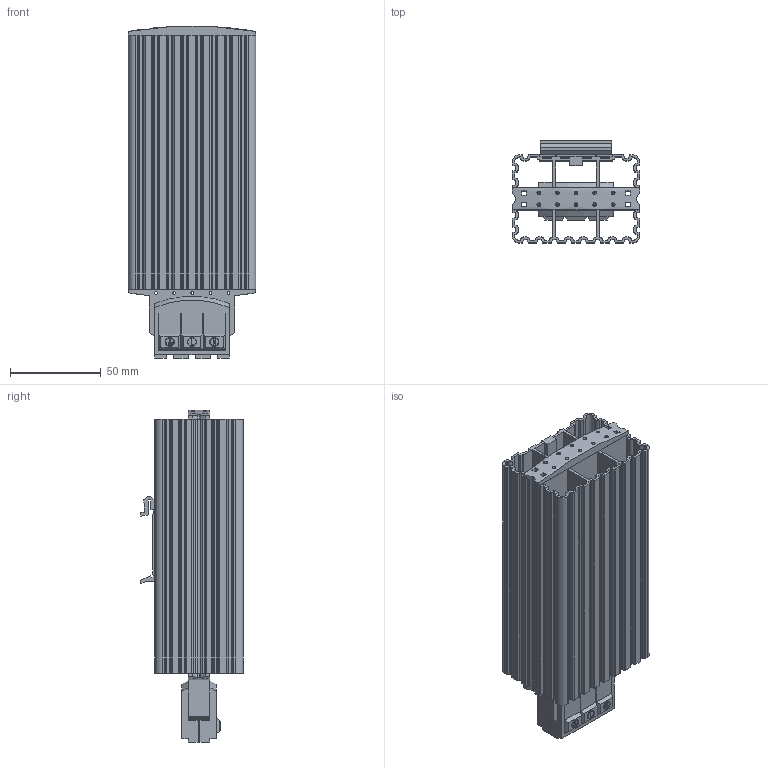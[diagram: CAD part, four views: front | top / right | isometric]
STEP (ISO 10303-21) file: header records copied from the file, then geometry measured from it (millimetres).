
FILE_DESCRIPTION (( 'STEP AP203' ), '1' );
FILE_NAME ('HG140-100W °×.STEP', '2026-01-14T05:24:04', ( 'PC' ), ( 'Microsoft' ), 'SwSTEP 2.0', 'SolidWorks 2024', '' );
FILE_SCHEMA (( 'CONFIG_CONTROL_DESIGN' ));
Length unit declared in the file: millimetre
Products named in the file (1): HG140-100W   白
Bounding box: 70.2 x 56.5 x 183 mm (x, y, z)
Volume: 209839.3 mm3; surface area: 135253.5 mm2
Topology: 3 solids, 3 shells, 701 faces, 1993 edges, 1314 vertices
Faces by surface type: plane 469, cylinder 200, bspline 30, cone 2
Entity records: 24864 total; most frequent: CARTESIAN_POINT 6437, ORIENTED_EDGE 3986, DIRECTION 3593, EDGE_CURVE 1993, VECTOR 1501, LINE 1501, VERTEX_POINT 1314, AXIS2_PLACEMENT_3D 1046
